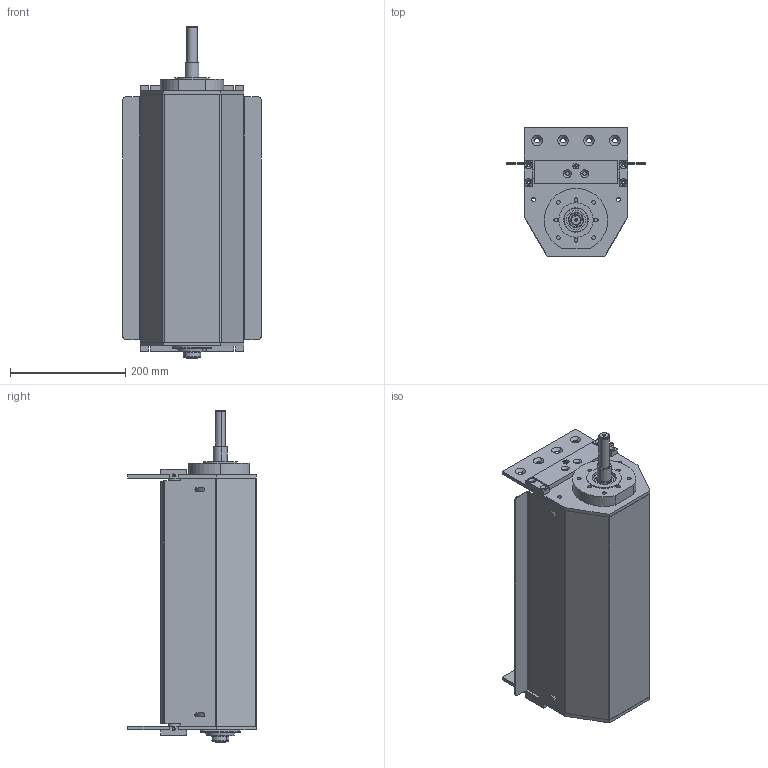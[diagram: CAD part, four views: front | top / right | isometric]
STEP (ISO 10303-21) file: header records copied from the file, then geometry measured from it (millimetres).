
FILE_DESCRIPTION (( 'STEP AP203' ), '1' );
FILE_NAME ('084.050.KCS.44.400.STEP', '2019-07-30T07:57:39', ( '' ), ( '' ), 'SwSTEP 2.0', 'SolidWorks 2018', '' );
FILE_SCHEMA (( 'CONFIG_CONTROL_DESIGN' ));
Length unit declared in the file: millimetre
Products named in the file (15): 084.817.065_Default<A macchina>; 084.802.021; 084.802.020; 084.802.004-1; 084.810.003; 084.802.003; 084.050.KCS.44.400; 084.802.012_Solo centrale; 084.802.010; 084.814.002-1; 084.817.063; 084.817.064; 084.812.003; 084.817.066; CUSCINETTI A SFERE_6004-2RS
Assembly tree (25 placements, depth 2):
  084.050.KCS.44.400
    084.817.063  x2
    084.817.065_Default<A macchina>
    084.817.066
    084.817.064  x2
    084.802.010
    084.802.021
    084.814.002-1
    084.810.003  x2
    084.802.004-1  x4
    084.802.020
    084.812.003
    084.802.003  x2
    CUSCINETTI A SFERE_6004-2RS  x4
    084.802.012_Solo centrale  x2
Bounding box: 240 x 223 x 576 mm (x, y, z)
Volume: 2932534.4 mm3; surface area: 1443555.2 mm2
Topology: 27 solids, 27 shells, 981 faces, 2439 edges, 1569 vertices
Faces by surface type: plane 419, cylinder 346, cone 138, torus 68, sphere 10
Entity records: 20684 total; most frequent: DIRECTION 3477, CARTESIAN_POINT 3286, ORIENTED_EDGE 3054, EDGE_CURVE 1527, AXIS2_PLACEMENT_3D 1323, VERTEX_POINT 984, LINE 831, VECTOR 831
